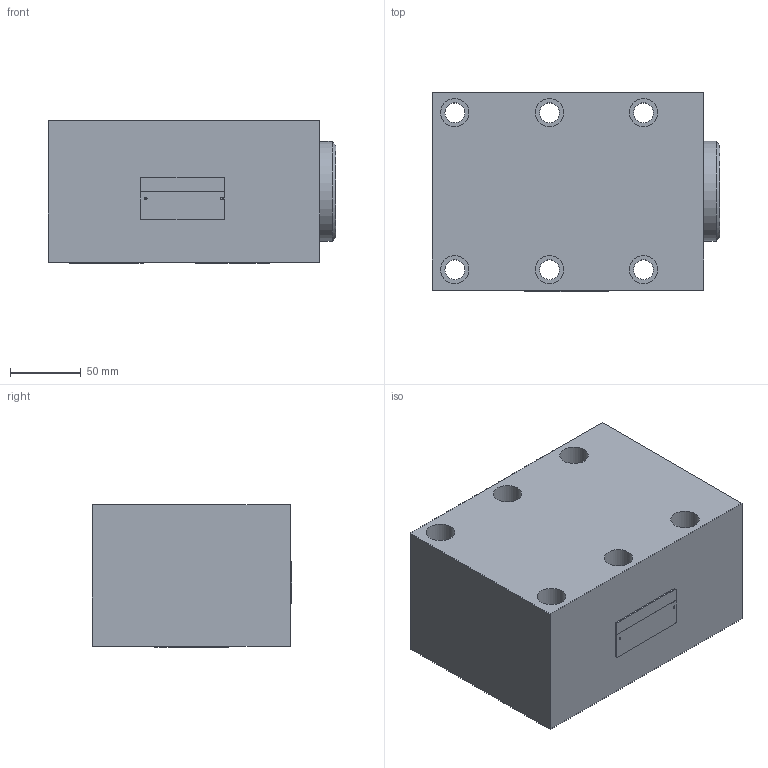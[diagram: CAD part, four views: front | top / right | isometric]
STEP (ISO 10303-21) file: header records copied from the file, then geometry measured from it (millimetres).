
FILE_DESCRIPTION(/* description */ (''),/* implementation_level */ '2;1');
FILE_NAME(/* name */ 'RVP40单向阀.prt.stp',/* time_stamp */ '2022-03-30T19:12:20+08:00',/* author */ (''),/* organization */ (''),/* preprocessor_version */ 'ST-DEVELOPER v16.7',/* originating_system */ 'SIEMENS PLM Software NX 12.0',/* authorisation */ '');
FILE_SCHEMA (('AUTOMOTIVE_DESIGN { 1 0 10303 214 3 1 1 1 }'));
Length unit declared in the file: millimetre
Products named in the file (1): RVP40单向阀
Bounding box: 203.45 x 141.1 x 100.8 mm (x, y, z)
Volume: 2591480.3 mm3; surface area: 198225 mm2
Topology: 6 solids, 8 shells, 93 faces, 210 edges, 140 vertices
Faces by surface type: plane 43, cylinder 35, cone 10, torus 3, bspline 2
Full cylindrical faces by diameter (mm): 1.8 x2, 1.9 x2, 14 x6, 20 x6, 23.43 x1, 45 x1, 54 x2, 60 x2, 61 x1, 62 x1, 70.667 x1, 76 x1
Entity records: 4374 total; most frequent: CARTESIAN_POINT 2435, DIRECTION 395, ORIENTED_EDGE 300, AXIS2_PLACEMENT_3D 166, EDGE_LOOP 157, EDGE_CURVE 150, FACE_BOUND 129, VERTEX_POINT 125
